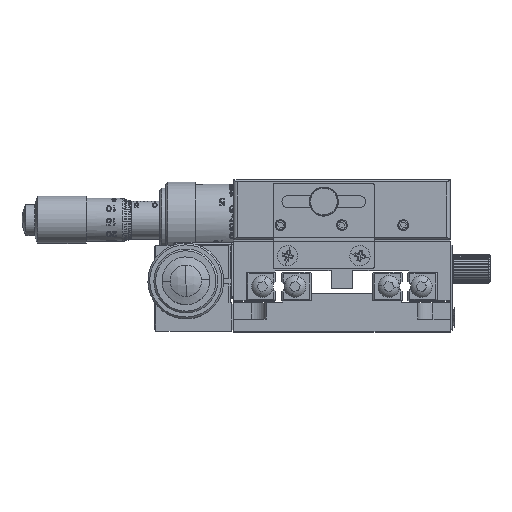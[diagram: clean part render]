
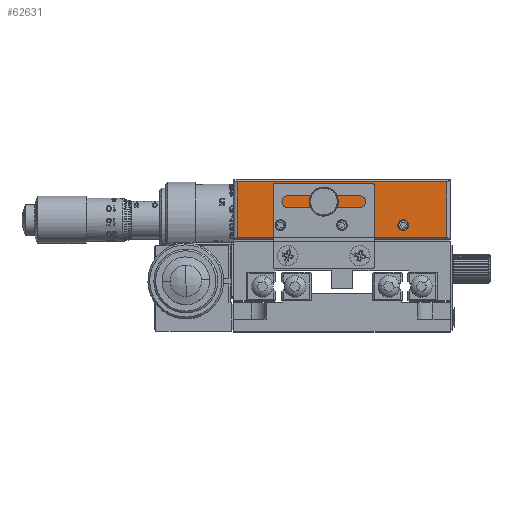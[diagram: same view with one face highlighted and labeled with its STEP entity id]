
A CAD part, top view. The second image highlights one B-rep face of the part: STEP entity #62631.
In plain terms, the highlighted planar face has unit normal (0, 0, 1) as drawn and (1, 0, 0) by its records, which use the part's own axes.
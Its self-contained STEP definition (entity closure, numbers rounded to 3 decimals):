
#1052 = CARTESIAN_POINT ( 'NONE',  ( 30., 2.25, 3.5 ) ) ;
#1818 = AXIS2_PLACEMENT_3D ( 'NONE', #63857, #143783, #75316 ) ;
#3291 = VERTEX_POINT ( 'NONE', #58044 ) ;
#3384 = ORIENTED_EDGE ( 'NONE', *, *, #84289, .F. ) ;
#3647 = CARTESIAN_POINT ( 'NONE',  ( 30., -4.25, 0. ) ) ;
#5356 = EDGE_CURVE ( 'NONE', #50798, #3291, #76654, .T. ) ;
#5558 = CARTESIAN_POINT ( 'NONE',  ( 30., -4.25, 15.5 ) ) ;
#9263 = CARTESIAN_POINT ( 'NONE',  ( 30., -4.25, -18.5 ) ) ;
#10032 = DIRECTION ( 'NONE',  ( 1., 0., 0. ) ) ;
#11555 = ORIENTED_EDGE ( 'NONE', *, *, #121152, .T. ) ;
#14764 = CARTESIAN_POINT ( 'NONE',  ( 30., -4.25, -15.5 ) ) ;
#15119 = DIRECTION ( 'NONE',  ( 0., 0., -1. ) ) ;
#16237 = VERTEX_POINT ( 'NONE', #14764 ) ;
#17040 = EDGE_CURVE ( 'NONE', #121445, #109593, #113125, .T. ) ;
#17127 = VERTEX_POINT ( 'NONE', #5558 ) ;
#19294 = ORIENTED_EDGE ( 'NONE', *, *, #103718, .T. ) ;
#26020 = VERTEX_POINT ( 'NONE', #9263 ) ;
#26082 = LINE ( 'NONE', #107359, #113667 ) ;
#26137 = DIRECTION ( 'NONE',  ( 0., 1., 0. ) ) ;
#26575 = DIRECTION ( 'NONE',  ( 1., 0., 0. ) ) ;
#28625 = VERTEX_POINT ( 'NONE', #106883 ) ;
#33808 = EDGE_LOOP ( 'NONE', ( #46864, #3384 ) ) ;
#33868 = CIRCLE ( 'NONE', #107460, 1.5 ) ;
#34503 = ORIENTED_EDGE ( 'NONE', *, *, #17040, .T. ) ;
#35236 = EDGE_CURVE ( 'NONE', #3291, #50798, #87063, .T. ) ;
#37115 = CARTESIAN_POINT ( 'NONE',  ( 30., -4.25, -17. ) ) ;
#37718 = CARTESIAN_POINT ( 'NONE',  ( 30., -4.25, 0. ) ) ;
#39188 = AXIS2_PLACEMENT_3D ( 'NONE', #123810, #55341, #135325 ) ;
#43984 = VECTOR ( 'NONE', #96590, 1000. ) ;
#46864 = ORIENTED_EDGE ( 'NONE', *, *, #61440, .F. ) ;
#47803 = PLANE ( 'NONE',  #146559 ) ;
#48689 = DIRECTION ( 'NONE',  ( 0., 0., -1. ) ) ;
#48781 = DIRECTION ( 'NONE',  ( -1., 0., 0. ) ) ;
#49278 = DIRECTION ( 'NONE',  ( 0., 0., -1. ) ) ;
#50798 = VERTEX_POINT ( 'NONE', #1052 ) ;
#51767 = EDGE_LOOP ( 'NONE', ( #88547, #71610 ) ) ;
#55341 = DIRECTION ( 'NONE',  ( 1., 0., 0. ) ) ;
#58044 = CARTESIAN_POINT ( 'NONE',  ( 30., 2.25, 6.5 ) ) ;
#58876 = CIRCLE ( 'NONE', #39188, 1.5 ) ;
#60732 = CARTESIAN_POINT ( 'NONE',  ( 30., -7.75, 30. ) ) ;
#61029 = EDGE_CURVE ( 'NONE', #16237, #26020, #71227, .T. ) ;
#61440 = EDGE_CURVE ( 'NONE', #28625, #74392, #80183, .T. ) ;
#61511 = DIRECTION ( 'NONE',  ( 0., -1., 0. ) ) ;
#61612 = VERTEX_POINT ( 'NONE', #105208 ) ;
#62395 = EDGE_CURVE ( 'NONE', #83449, #17127, #58876, .T. ) ;
#62631 = ADVANCED_FACE ( 'NONE', ( #80073, #89164, #90763, #87199, #87330 ), #47803, .F. ) ;
#63243 = EDGE_LOOP ( 'NONE', ( #95400, #126581 ) ) ;
#63857 = CARTESIAN_POINT ( 'NONE',  ( 30., -4.25, -17. ) ) ;
#64764 = DIRECTION ( 'NONE',  ( 1., 0., 0. ) ) ;
#67998 = AXIS2_PLACEMENT_3D ( 'NONE', #3647, #83613, #15119 ) ;
#69058 = CARTESIAN_POINT ( 'NONE',  ( 30., 7.75, -29. ) ) ;
#69858 = CIRCLE ( 'NONE', #84901, 1.5 ) ;
#71227 = CIRCLE ( 'NONE', #1818, 1.5 ) ;
#71610 = ORIENTED_EDGE ( 'NONE', *, *, #62395, .F. ) ;
#72647 = ORIENTED_EDGE ( 'NONE', *, *, #94134, .F. ) ;
#73108 = CIRCLE ( 'NONE', #81268, 1.5 ) ;
#74392 = VERTEX_POINT ( 'NONE', #141095 ) ;
#75206 = EDGE_CURVE ( 'NONE', #17127, #83449, #69858, .T. ) ;
#75316 = DIRECTION ( 'NONE',  ( 0., 0., -1. ) ) ;
#76654 = CIRCLE ( 'NONE', #131343, 1.5 ) ;
#78606 = CARTESIAN_POINT ( 'NONE',  ( 30., 2.25, 5. ) ) ;
#80073 = FACE_BOUND ( 'NONE', #63243, .T. ) ;
#80183 = CIRCLE ( 'NONE', #67998, 1.5 ) ;
#81268 = AXIS2_PLACEMENT_3D ( 'NONE', #37115, #117104, #48689 ) ;
#83449 = VERTEX_POINT ( 'NONE', #104748 ) ;
#83613 = DIRECTION ( 'NONE',  ( 1., 0., 0. ) ) ;
#84289 = EDGE_CURVE ( 'NONE', #74392, #28625, #33868, .T. ) ;
#84901 = AXIS2_PLACEMENT_3D ( 'NONE', #133179, #64764, #144697 ) ;
#87063 = CIRCLE ( 'NONE', #89899, 1.5 ) ;
#87199 = FACE_BOUND ( 'NONE', #102019, .T. ) ;
#87330 = FACE_OUTER_BOUND ( 'NONE', #126497, .T. ) ;
#88547 = ORIENTED_EDGE ( 'NONE', *, *, #75206, .F. ) ;
#89164 = FACE_BOUND ( 'NONE', #51767, .T. ) ;
#89899 = AXIS2_PLACEMENT_3D ( 'NONE', #78606, #10032, #90011 ) ;
#90011 = DIRECTION ( 'NONE',  ( 0., 0., -1. ) ) ;
#90514 = VERTEX_POINT ( 'NONE', #142124 ) ;
#90763 = FACE_BOUND ( 'NONE', #33808, .T. ) ;
#94134 = EDGE_CURVE ( 'NONE', #26020, #16237, #73108, .T. ) ;
#94832 = ORIENTED_EDGE ( 'NONE', *, *, #125221, .T. ) ;
#95000 = CARTESIAN_POINT ( 'NONE',  ( 30., 2.25, 5. ) ) ;
#95400 = ORIENTED_EDGE ( 'NONE', *, *, #5356, .F. ) ;
#96590 = DIRECTION ( 'NONE',  ( 0., 0., -1. ) ) ;
#102019 = EDGE_LOOP ( 'NONE', ( #72647, #105329 ) ) ;
#103718 = EDGE_CURVE ( 'NONE', #61612, #121445, #135323, .T. ) ;
#104748 = CARTESIAN_POINT ( 'NONE',  ( 30., -4.25, 18.5 ) ) ;
#105021 = CARTESIAN_POINT ( 'NONE',  ( 30., 7.75, 29. ) ) ;
#105208 = CARTESIAN_POINT ( 'NONE',  ( 30., -7.75, 29. ) ) ;
#105329 = ORIENTED_EDGE ( 'NONE', *, *, #61029, .F. ) ;
#106042 = CARTESIAN_POINT ( 'NONE',  ( 30., 0., -29. ) ) ;
#106489 = DIRECTION ( 'NONE',  ( 0., 0., -1. ) ) ;
#106883 = CARTESIAN_POINT ( 'NONE',  ( 30., -4.25, -1.5 ) ) ;
#107359 = CARTESIAN_POINT ( 'NONE',  ( 30., -8.25, 29. ) ) ;
#107460 = AXIS2_PLACEMENT_3D ( 'NONE', #37718, #117707, #49278 ) ;
#109593 = VERTEX_POINT ( 'NONE', #69058 ) ;
#109928 = CARTESIAN_POINT ( 'NONE',  ( 30., -7.75, -29. ) ) ;
#112979 = VECTOR ( 'NONE', #26137, 1000. ) ;
#113125 = LINE ( 'NONE', #106042, #112979 ) ;
#113667 = VECTOR ( 'NONE', #61511, 1000. ) ;
#116204 = CARTESIAN_POINT ( 'NONE',  ( 30., 0., 30. ) ) ;
#116548 = DIRECTION ( 'NONE',  ( 0., 0., 1. ) ) ;
#117104 = DIRECTION ( 'NONE',  ( 1., 0., 0. ) ) ;
#117132 = VECTOR ( 'NONE', #116548, 1000. ) ;
#117707 = DIRECTION ( 'NONE',  ( 1., 0., 0. ) ) ;
#118303 = LINE ( 'NONE', #105021, #117132 ) ;
#121152 = EDGE_CURVE ( 'NONE', #109593, #90514, #118303, .T. ) ;
#121445 = VERTEX_POINT ( 'NONE', #109928 ) ;
#123810 = CARTESIAN_POINT ( 'NONE',  ( 30., -4.25, 17. ) ) ;
#125221 = EDGE_CURVE ( 'NONE', #90514, #61612, #26082, .T. ) ;
#126497 = EDGE_LOOP ( 'NONE', ( #34503, #11555, #94832, #19294 ) ) ;
#126581 = ORIENTED_EDGE ( 'NONE', *, *, #35236, .F. ) ;
#128725 = DIRECTION ( 'NONE',  ( 0., 0., 1. ) ) ;
#131343 = AXIS2_PLACEMENT_3D ( 'NONE', #95000, #26575, #106489 ) ;
#133179 = CARTESIAN_POINT ( 'NONE',  ( 30., -4.25, 17. ) ) ;
#135323 = LINE ( 'NONE', #60732, #43984 ) ;
#135325 = DIRECTION ( 'NONE',  ( 0., 0., -1. ) ) ;
#141095 = CARTESIAN_POINT ( 'NONE',  ( 30., -4.25, 1.5 ) ) ;
#142124 = CARTESIAN_POINT ( 'NONE',  ( 30., 7.75, 29. ) ) ;
#143783 = DIRECTION ( 'NONE',  ( 1., 0., 0. ) ) ;
#144697 = DIRECTION ( 'NONE',  ( 0., 0., -1. ) ) ;
#146559 = AXIS2_PLACEMENT_3D ( 'NONE', #116204, #48781, #128725 ) ;
